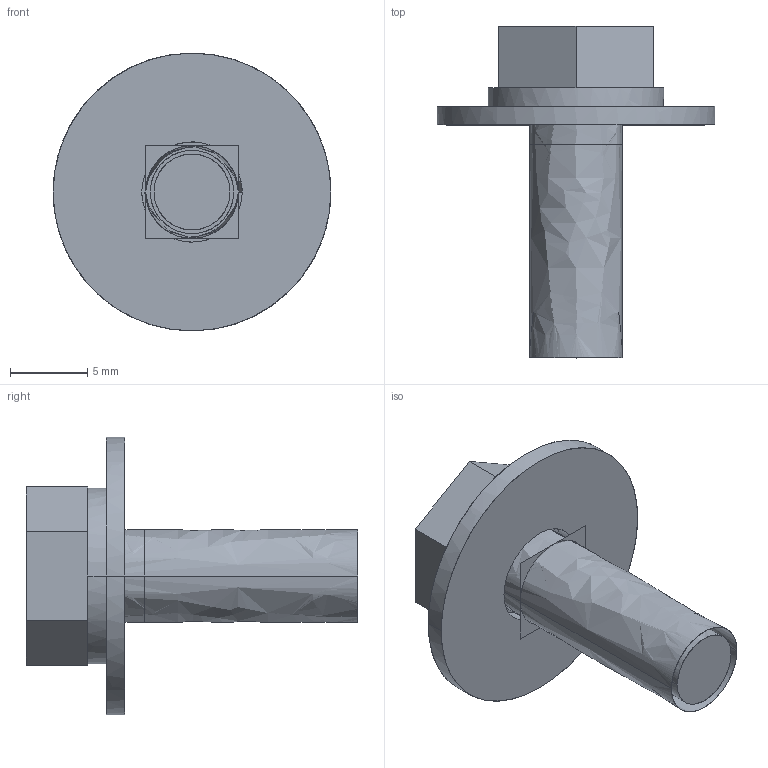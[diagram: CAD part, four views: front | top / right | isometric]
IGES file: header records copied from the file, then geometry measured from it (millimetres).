
Start section:  PTC IGES file: sw-pw-p-up-m6x18.igs
Global section: file name: sw-pw-p-up-m6x18.igs; native system: Creo Parametric by PTC Inc.; preprocessor: 2020184; author: VX25986; organization: Unknown; date: 20210323.200205; units: millimetre
Bounding box: 18 x 21.5 x 18 mm (x, y, z)
Surface area: 1954.7 mm2 (no closed solid volume)
Topology: 0 solids, 0 shells, 49 faces, 306 edges, 346 vertices
Faces by surface type: bspline 49
